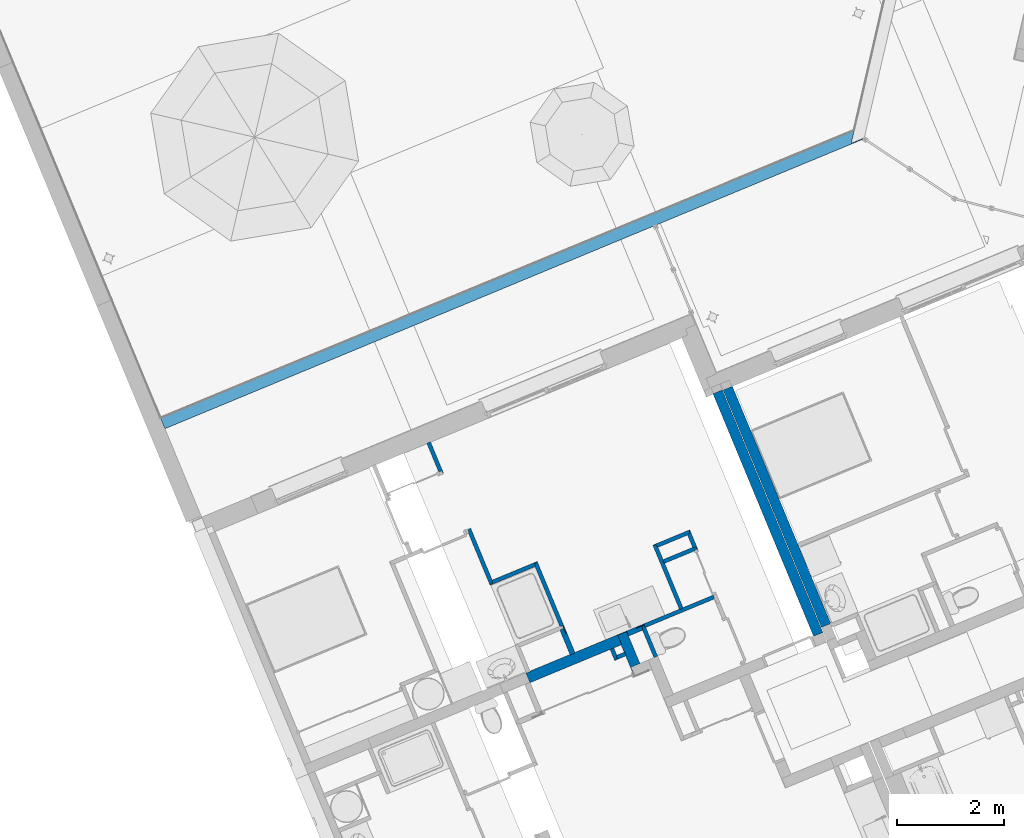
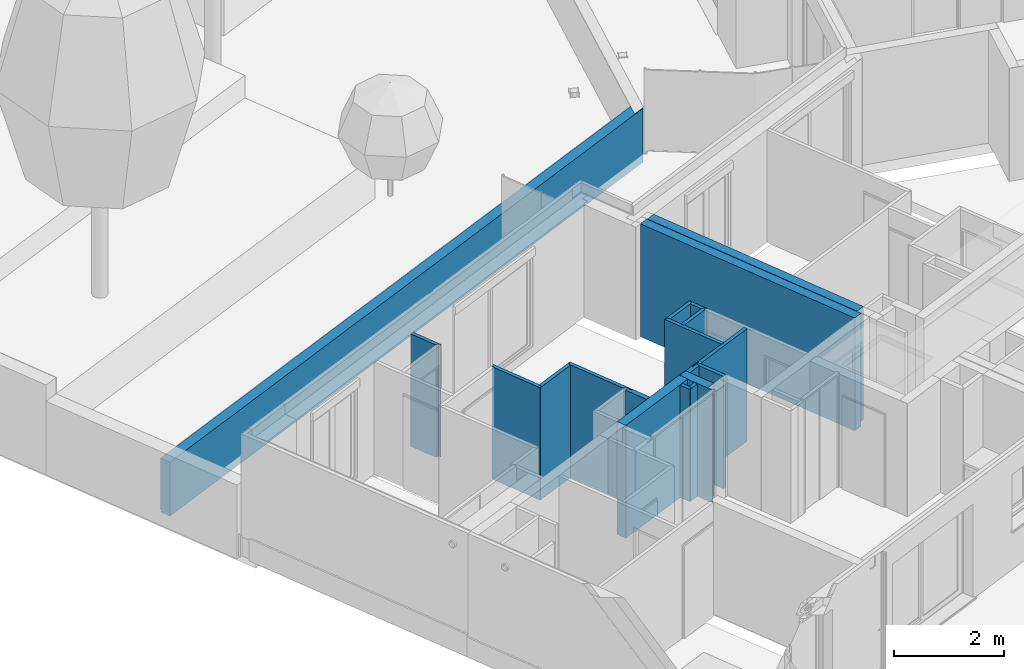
# One storey, part 40 of 119: 19 walls.
"""IFC2X3 building model written with IfcOpenShell, lengths in metres."""

import ifcopenshell
import ifcopenshell.guid

model = None  # the IFC model being written
_history = None  # IfcOwnerHistory: only IFC2X3 demands one
_inside = {}  # id of a spatial element -> (the spatial element, [elements in it])
_under = {}  # id of a project, library or spatial element -> (it, [spatial elements below it])
_declared = {}  # id of a project -> (the project, [libraries it declares])
_typed = {}  # id of a type object -> (the type object, [elements of that type])
_made_of = {}  # id of a material, layer set ... -> (it, [elements and type objects made of it])


def new_model(schema):
    """Start an empty IFC model of exactly this schema.

    Asked for "IFC4X3", IfcOpenShell would pick the latest addendum, in which some entities
    have other attributes; the version numbers below select the first issue.
    IFC2X3 requires an IfcOwnerHistory on every rooted entity: one is made here for all.
    """
    global model, _history
    if schema == "IFC4X3":
        model = ifcopenshell.file(schema_version=(4, 3, 0, 0))
    else:
        model = ifcopenshell.file(schema=schema)
    _inside.clear()
    _under.clear()
    _declared.clear()
    _typed.clear()
    _made_of.clear()
    _history = None
    if model.schema == "IFC2X3":
        org = make("IfcOrganization", Name="unknown")
        user = make(
            "IfcPersonAndOrganization",
            ThePerson=make("IfcPerson", FamilyName="unknown"),
            TheOrganization=org,
        )
        app = make(
            "IfcApplication",
            ApplicationDeveloper=org,
            Version="unknown",
            ApplicationFullName="unknown",
            ApplicationIdentifier="unknown",
        )
        _history = make(
            "IfcOwnerHistory",
            OwningUser=user,
            OwningApplication=app,
            ChangeAction="ADDED",
            CreationDate=0,
        )
    return model


def make(cls, **values):
    """One entity of the class cls with the attributes given. An attribute that is None is left unset."""
    return model.create_entity(
        cls, **{name: value for name, value in values.items() if value is not None}
    )


def entity(cls, *values):
    """Any entity or typed value of the class cls, its attributes in the order of the schema. None: left unset."""
    e = model.create_entity(cls)
    for i, value in enumerate(values):
        if value is not None:
            e[i] = value
    return e


def rooted(cls, **values):
    """An entity with a GlobalId (a new one), such as an element, a storey or a relation."""
    return make(cls, GlobalId=ifcopenshell.guid.new(), OwnerHistory=_history, **values)


def si_unit(unit_type, name, prefix=None):
    """IfcSIUnit, for example si_unit("LENGTHUNIT", "METRE", prefix="MILLI")."""
    return make("IfcSIUnit", UnitType=unit_type, Prefix=prefix, Name=name)


def converted_unit(unit_type, name, factor, base, dimensions=None, offset=None):
    """IfcConversionBasedUnit, such as the inch: factor (a typed value) times the base unit."""
    return make(
        "IfcConversionBasedUnit"
        if offset is None
        else "IfcConversionBasedUnitWithOffset",
        ConversionOffset=offset,
        Dimensions=None
        if dimensions is None
        else entity("IfcDimensionalExponents", *dimensions),
        UnitType=unit_type,
        Name=name,
        ConversionFactor=make(
            "IfcMeasureWithUnit", ValueComponent=factor, UnitComponent=base
        ),
    )


def derived_unit(unit_type, elements):
    """IfcDerivedUnit: a product of units, each with its exponent."""
    return make(
        "IfcDerivedUnit",
        Elements=[
            make("IfcDerivedUnitElement", Unit=unit, Exponent=power)
            for unit, power in elements
        ],
        UnitType=unit_type,
    )


def money_unit(currency):
    """IfcMonetaryUnit."""
    return make("IfcMonetaryUnit", Currency=currency)


def assignment(units):
    """IfcUnitAssignment: the units of a project."""
    return None if units is None else make("IfcUnitAssignment", Units=units)


def point(xyz):
    """IfcCartesianPoint."""
    return None if xyz is None else make("IfcCartesianPoint", Coordinates=xyz)


def direction(xyz):
    """IfcDirection."""
    return None if xyz is None else make("IfcDirection", DirectionRatios=xyz)


def frame(location, z_axis=None, x_axis=None):
    """IfcAxis2Placement3D, a coordinate frame: its origin and axes. An axis left out is left unset."""
    return make(
        "IfcAxis2Placement3D",
        Location=point(location),
        Axis=direction(z_axis),
        RefDirection=direction(x_axis),
    )


def origin_with_axes():
    """The frame at (0, 0, 0) with the z axis (0, 0, 1) and the x axis (1, 0, 0) written out."""
    return frame((0.0, 0.0, 0.0), z_axis=(0.0, 0.0, 1.0), x_axis=(1.0, 0.0, 0.0))


def place(relative_to, where):
    """IfcLocalPlacement: puts the frame where relative to a parent placement (None: the world)."""
    return make(
        "IfcLocalPlacement", PlacementRelTo=relative_to, RelativePlacement=where
    )


def context(
    kind, dimensions, precision=None, world=None, true_north=None, identifier=None
):
    """IfcGeometricRepresentationContext, for example the 3D "Model" context."""
    return make(
        "IfcGeometricRepresentationContext",
        ContextIdentifier=identifier,
        ContextType=kind,
        CoordinateSpaceDimension=dimensions,
        Precision=precision,
        WorldCoordinateSystem=world,
        TrueNorth=true_north,
    )


def subcontext(parent, identifier, kind, view, scale=None):
    """IfcGeometricRepresentationSubContext, for example "Body" below "Model"."""
    return make(
        "IfcGeometricRepresentationSubContext",
        ContextIdentifier=identifier,
        ContextType=kind,
        ParentContext=parent,
        TargetScale=scale,
        TargetView=view,
    )


def project(units=None, contexts=None):
    """IfcProject with its units and contexts."""
    return rooted(
        "IfcProject",
        Name="project",
        RepresentationContexts=contexts,
        UnitsInContext=assignment(units),
    )


def spatial(cls, under=None, at=None, **own):
    """A site, building, storey or space (cls), placed at a placement, below another one or the project."""
    s = rooted(cls, ObjectPlacement=at, **own)
    if under is not None:
        _under.setdefault(under.id(), (under, []))[1].append(s)
    return s


def faces_of(points, faces, orient=None, outer=None):
    """IfcFace entities. A face is a list of loops; a loop is a list of indices into points, from 0.

    orient and outer hold one flag for each loop. By default every Orientation is true, the
    first loop of a face is its IfcFaceOuterBound and the others are IfcFaceBound.
    """
    made = []
    for i, loops in enumerate(faces):
        bounds = []
        for j, loop in enumerate(loops):
            is_outer = j == 0 if outer is None else outer[i][j]
            bounds.append(
                make(
                    "IfcFaceOuterBound" if is_outer else "IfcFaceBound",
                    Bound=make("IfcPolyLoop", Polygon=[points[k] for k in loop]),
                    Orientation=True if orient is None else orient[i][j],
                )
            )
        made.append(make("IfcFace", Bounds=bounds))
    return made


def faceted_brep(points, faces, orient=None, outer=None, voids=None):
    """IfcFacetedBrep: a solid bounded by flat faces; with voids (closed shells), ...WithVoids."""
    shared = [point(p) for p in points]
    hull = make("IfcClosedShell", CfsFaces=faces_of(shared, faces, orient, outer))
    if voids is None:
        return make("IfcFacetedBrep", Outer=hull)
    return make(
        "IfcFacetedBrepWithVoids",
        Outer=hull,
        Voids=[
            make(cls, CfsFaces=faces_of(shared, fs, o, b)) for cls, fs, o, b in voids
        ],
    )


def shape(context_of_items, identifier, shape_type, items):
    """IfcShapeRepresentation: the items that make up one representation, for example the "Body"."""
    return make(
        "IfcShapeRepresentation",
        ContextOfItems=context_of_items,
        RepresentationIdentifier=identifier,
        RepresentationType=shape_type,
        Items=items,
    )


def material(Name=None, Category=None):
    """IfcMaterial."""
    return make("IfcMaterial", Name=Name, Category=Category)


def material_list(materials):
    """IfcMaterialList."""
    return make("IfcMaterialList", Materials=materials)


def made_of(thing, what):
    """Note that an element or type object is made of a material, layer set ...; save() writes the relation."""
    if what is not None:
        _made_of.setdefault(what.id(), (what, []))[1].append(thing)
    return thing


def type_object(cls, material=None, **own):
    """A type object (cls), such as IfcWallType, which elements share."""
    return made_of(rooted(cls, **own), material)


def element(
    cls,
    number,
    at=None,
    inside=None,
    cuts=None,
    type_object=None,
    material=None,
    context=None,
    identifier="Body",
    shape_type=None,
    held_by="IfcProductDefinitionShape",
    body=None,
    shapes=None,
    **own,
):
    """One element of the class cls, such as IfcWall. Its Tag is "e" and its number.

    at: its placement. inside: the storey or other place that contains it. cuts: it is an
    opening in that element (IfcRelVoidsElement). A single representation is given by context,
    identifier, shape_type and body (its items); several are given by shapes. held_by: the class
    of the entity that holds the representations. save() writes the other relations.
    """
    e = rooted(cls, Tag="e%d" % number, ObjectPlacement=at, **own)
    if body is not None:
        shapes = [shape(context, identifier, shape_type, body)]
    if shapes is not None:
        e.Representation = make(held_by, Representations=shapes)
    if inside is not None:
        _inside.setdefault(inside.id(), (inside, []))[1].append(e)
    if cuts is not None:
        rooted(
            "IfcRelVoidsElement", RelatingBuildingElement=cuts, RelatedOpeningElement=e
        )
    if type_object is not None:
        _typed.setdefault(type_object.id(), (type_object, []))[1].append(e)
    return made_of(e, material)


def aggregate(whole, parts):
    """IfcRelAggregates: a whole, such as a stair, and the parts it consists of."""
    return rooted("IfcRelAggregates", RelatingObject=whole, RelatedObjects=parts)


def save(model, path):
    """Write the relations noted so far, then the file.

    IfcRelAggregates (storeys below a building ...), IfcRelContainedInSpatialStructure (elements
    in a storey), IfcRelDefinesByType, IfcRelAssociatesMaterial and IfcRelDeclares: one each for
    every whole, place, type object, material and project.
    """
    for whole, parts in _under.values():
        aggregate(whole, parts)
    for where, things in _inside.values():
        rooted(
            "IfcRelContainedInSpatialStructure",
            RelatedElements=things,
            RelatingStructure=where,
        )
    for kind, things in _typed.values():
        rooted("IfcRelDefinesByType", RelatedObjects=things, RelatingType=kind)
    for what, things in _made_of.values():
        rooted("IfcRelAssociatesMaterial", RelatedObjects=things, RelatingMaterial=what)
    for by, libraries in _declared.values():
        rooted("IfcRelDeclares", RelatingContext=by, RelatedDefinitions=libraries)
    model.write(path)


model = new_model("IFC2X3")

# Units and contexts
model_context = context("Model", 3, precision=1e-05, world=origin_with_axes(), true_north=direction((0.0, 1.0)))
body_context = subcontext(model_context, "Body", "Model", "MODEL_VIEW")
ifc_project = project(units=[si_unit("LENGTHUNIT", "METRE"), si_unit("AREAUNIT", "SQUARE_METRE"), si_unit("VOLUMEUNIT", "CUBIC_METRE"), converted_unit("PLANEANGLEUNIT", "DEGREE", entity("IfcPlaneAngleMeasure", 0.0174532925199), si_unit("PLANEANGLEUNIT", "RADIAN"), dimensions=[0, 0, 0, 0, 0, 0, 0]), si_unit("SOLIDANGLEUNIT", "STERADIAN"), money_unit("EUR"), converted_unit("TIMEUNIT", "Year", entity("IfcTimeMeasure", 31556926.0), si_unit("TIMEUNIT", "SECOND"), dimensions=[0, 0, 1, 0, 0, 0, 0]), si_unit("MASSUNIT", "GRAM", prefix="KILO"), si_unit("THERMODYNAMICTEMPERATUREUNIT", "DEGREE_CELSIUS"), si_unit("LUMINOUSINTENSITYUNIT", "LUMEN"), si_unit("ENERGYUNIT", "JOULE", prefix="MEGA"), derived_unit("THERMALCONDUCTANCEUNIT", [(si_unit("POWERUNIT", "WATT"), 1), (si_unit("LENGTHUNIT", "METRE"), -1), (si_unit("THERMODYNAMICTEMPERATUREUNIT", "KELVIN"), -1)]), derived_unit("SPECIFICHEATCAPACITYUNIT", [(si_unit("ENERGYUNIT", "JOULE"), 1), (si_unit("MASSUNIT", "GRAM", prefix="KILO"), -1), (si_unit("THERMODYNAMICTEMPERATUREUNIT", "KELVIN"), -1)]), derived_unit("MASSDENSITYUNIT", [(si_unit("MASSUNIT", "GRAM", prefix="KILO"), 1), (si_unit("VOLUMEUNIT", "CUBIC_METRE"), -1)])], contexts=[model_context])

# Site, building, storey
site_placement = place(None, origin_with_axes())
site = spatial("IfcSite", under=ifc_project, at=site_placement, Name="Site", CompositionType="ELEMENT")
building_placement = place(site_placement, origin_with_axes())
building = spatial("IfcBuilding", under=site, at=building_placement, Name="Bâtiment", CompositionType="ELEMENT")
storey_placement = place(building_placement, origin_with_axes())
storey = spatial("IfcBuildingStorey", under=building, at=storey_placement, Name="Rez-de-chaussée", CompositionType="ELEMENT", Elevation=0.0)

# Walls
ifc_material_1 = material(Name="Finition int - Plaque de plâtre")
ifc_material_2 = material(Name="Isolation - Laine de roche")
ifc_material_list_1 = material_list([ifc_material_1, ifc_material_2, ifc_material_1])
wall_type_1 = type_object("IfcWallType", Name="3 - Cloison 72mm Placostil 74", PredefinedType="USERDEFINED")
wall_1_placement = place(storey_placement, frame((-25.5578025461, -19.2928415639, 0.0), z_axis=(0.0, 0.0, 1.0), x_axis=(-0.923701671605, -0.383112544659, 0.0)))
element("IfcWall", 1, at=wall_1_placement, inside=storey, type_object=wall_type_1, material=ifc_material_list_1, Name="Cloison Placostil 72/48", ObjectType="PARTITIONING", context=body_context, shape_type="Brep", body=[
    faceted_brep([(0.0739999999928, 0.061, 2.5), (1.46199999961, 0.061, 2.5), (1.46199999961, 0.0740000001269, 2.5), (0.0739999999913, 0.074, 2.5), (0.0739999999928, 0.061, 0.0), (1.46199999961, 0.061, 0.0), (1.46199999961, 0.0740000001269, 0.0), (0.0739999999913, 0.074, 0.0)], [[[0, 1, 2, 3]], [[4, 5, 1, 0]], [[5, 6, 2, 1]], [[3, 2, 6, 7]], [[3, 7, 4, 0]], [[7, 6, 5, 4]]]),
    faceted_brep([(1.63599999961, 0.0260000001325, 2.5), (1.52299999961, 0.0260000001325, 2.5), (1.47499999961, 0.0260000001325, 2.5), (1.47499999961, 0.061, 2.5), (0.0609999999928, 0.061, 2.5), (0.0609999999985, 0.013, 2.5), (1.63599999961, 0.013, 2.5), (1.63599999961, 0.0260000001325, 0.0), (1.52299999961, 0.0260000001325, 0.0), (1.47499999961, 0.0260000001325, 0.0), (1.47499999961, 0.061, 0.0), (0.0609999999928, 0.061, 0.0), (0.0609999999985, 0.013, 0.0), (1.63599999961, 0.013, 0.0)], [[[0, 1, 2, 3, 4, 5, 6]], [[7, 8, 9, 2, 1, 0]], [[9, 10, 3, 2]], [[4, 3, 10, 11]], [[4, 11, 12, 5]], [[6, 5, 12, 13]], [[13, 7, 0, 6]], [[10, 9, 8, 7, 13, 12, 11]]]),
    faceted_brep([(0.735000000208, 0.0, 2.5), (1.46199999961, 1.32503785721e-10, 2.5), (1.46199999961, 0.0130000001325, 2.5), (0.735000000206, 0.013, 2.5), (0.735000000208, 0.0, 0.0), (1.46199999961, 1.32503785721e-10, 0.0), (1.46199999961, 0.0130000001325, 0.0), (0.735000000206, 0.013, 0.0)], [[[0, 1, 2, 3]], [[4, 5, 1, 0]], [[5, 6, 2, 1]], [[3, 2, 6, 7]], [[3, 7, 4, 0]], [[7, 6, 5, 4]]]),
    faceted_brep([(0.687000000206, 0.013, 0.0), (0.0609999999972, 0.013, 0.0), (0.0609999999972, 0.013, 2.5), (0.687000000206, 0.013, 2.5), (0.687000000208, 0.0, 0.0), (0.061, 0.0, 0.0), (0.061, 0.0, 2.5), (0.687000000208, 0.0, 2.5)], [[[0, 1, 2, 3]], [[4, 5, 1, 0]], [[5, 6, 2, 1]], [[3, 2, 6, 7]], [[3, 7, 4, 0]], [[7, 6, 5, 4]]]),
])
wall_2_placement = place(storey_placement, frame((-25.9026038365, -18.4615100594, 0.0), z_axis=(0.0, 0.0, 1.0), x_axis=(-0.383112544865, 0.923701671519, 0.0)))
element("IfcWall", 2, at=wall_2_placement, inside=storey, type_object=wall_type_1, material=ifc_material_list_1, Name="Cloison Placostil 72/48", ObjectType="PARTITIONING", context=body_context, shape_type="Brep", body=[
    faceted_brep([(0.32472765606, 0.074, 0.0), (0.324727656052, 0.061, 0.0), (0.0740000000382, 0.061, 0.0), (0.0740000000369, 0.074, 0.0), (0.32472765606, 0.074, 2.5), (0.324727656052, 0.061, 2.5), (0.0740000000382, 0.061, 2.5), (0.0740000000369, 0.074, 2.5)], [[[0, 1, 2, 3]], [[1, 0, 4, 5]], [[1, 5, 6, 2]], [[7, 3, 2, 6]], [[4, 0, 3, 7]], [[5, 4, 7, 6]]]),
    faceted_brep([(0.337727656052, 0.061, 0.0), (0.337727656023, 0.013, 0.0), (0.0610000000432, 0.013, 0.0), (0.0610000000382, 0.061, 0.0), (0.337727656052, 0.061, 2.5), (0.337727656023, 0.013, 2.5), (0.0610000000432, 0.013, 2.5), (0.0610000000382, 0.061, 2.5)], [[[0, 1, 2, 3]], [[1, 0, 4, 5]], [[1, 5, 6, 2]], [[7, 3, 2, 6]], [[4, 0, 3, 7]], [[5, 4, 7, 6]]]),
    faceted_brep([(0.0130000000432, 0.013, 0.0), (0.385727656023, 0.013, 0.0), (0.385727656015, 0.0, 0.0), (0.0130000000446, 0.0, 0.0), (0.0130000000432, 0.013, 2.5), (0.385727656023, 0.013, 2.5), (0.385727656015, 0.0, 2.5), (0.0130000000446, 0.0, 2.5)], [[[0, 1, 2, 3]], [[4, 5, 1, 0]], [[6, 2, 1, 5]], [[3, 2, 6, 7]], [[7, 4, 0, 3]], [[7, 6, 5, 4]]]),
])
wall_3_placement = place(storey_placement, frame((-26.5251787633, -18.7197279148, 0.0), z_axis=(0.0, 0.0, 1.0), x_axis=(0.923701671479, 0.383112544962, 0.0)))
element("IfcWall", 3, at=wall_3_placement, inside=storey, type_object=wall_type_1, material=ifc_material_list_1, Name="Cloison Placostil 72/48", ObjectType="PARTITIONING", context=body_context, shape_type="Brep", body=[
    faceted_brep([(0.613000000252, 0.074, 0.0), (0.613000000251, 0.061, 0.0), (1.45170986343e-10, 0.061, 0.0), (1.48048684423e-10, 0.074, 0.0), (0.613000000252, 0.074, 2.5), (0.613000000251, 0.061, 2.5), (1.45170986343e-10, 0.061, 2.5), (1.48048684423e-10, 0.074, 2.5)], [[[0, 1, 2, 3]], [[1, 0, 4, 5]], [[1, 5, 6, 2]], [[7, 3, 2, 6]], [[4, 0, 3, 7]], [[5, 4, 7, 6]]]),
    faceted_brep([(-0.0129999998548, 0.061, 0.0), (0.661000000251, 0.061, 0.0), (0.661000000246, 0.013, 0.0), (-0.0129999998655, 0.013, 0.0), (-0.0129999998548, 0.061, 2.5), (0.661000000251, 0.061, 2.5), (0.661000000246, 0.013, 2.5), (-0.0129999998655, 0.013, 2.5)], [[[0, 1, 2, 3]], [[4, 5, 1, 0]], [[6, 2, 1, 5]], [[3, 2, 6, 7]], [[7, 4, 0, 3]], [[7, 6, 5, 4]]]),
    faceted_brep([(1.31663568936e-10, 0.0, 0.0), (0.613000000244, 0.0, 0.0), (0.613000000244, 0.0, 2.5), (1.31663568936e-10, 0.0, 2.5), (1.3454481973e-10, 0.013, 0.0), (0.613000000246, 0.013, 0.0), (0.613000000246, 0.013, 2.5), (1.3454481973e-10, 0.013, 2.5)], [[[0, 1, 2, 3]], [[4, 5, 1, 0]], [[5, 6, 2, 1]], [[3, 2, 6, 7]], [[3, 7, 4, 0]], [[7, 6, 5, 4]]]),
    faceted_brep([(0.674000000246, 0.013, 2.5), (0.661000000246, 0.013, 2.5), (0.661000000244, 0.0, 2.5), (0.674000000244, 0.0, 2.5), (0.674000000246, 0.013, 0.0), (0.661000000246, 0.013, 0.0), (0.661000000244, 0.0, 0.0), (0.674000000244, 0.0, 0.0)], [[[0, 1, 2, 3]], [[4, 5, 1, 0]], [[5, 6, 2, 1]], [[3, 2, 6, 7]], [[3, 7, 4, 0]], [[7, 6, 5, 4]]]),
])
wall_4_placement = place(storey_placement, frame((-26.1803774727, -19.5510594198, 0.0), z_axis=(0.0, 0.0, 1.0), x_axis=(-0.383112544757, 0.923701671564, 0.0)))
element("IfcWall", 4, at=wall_4_placement, inside=storey, type_object=wall_type_1, material=ifc_material_list_1, Name="Cloison Placostil 72/48", ObjectType="PARTITIONING", context=body_context, shape_type="Brep", body=[
    faceted_brep([(1.29872765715, 0.074, 0.0), (1.29872765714, 0.061, 0.0), (7.02268465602e-10, 0.061, 0.0), (7.0365224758e-10, 0.074, 0.0), (1.29872765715, 0.074, 2.5), (1.29872765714, 0.061, 2.5), (7.02268465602e-10, 0.061, 2.5), (7.0365224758e-10, 0.074, 2.5)], [[[0, 1, 2, 3]], [[1, 0, 4, 5]], [[1, 5, 6, 2]], [[7, 3, 2, 6]], [[4, 0, 3, 7]], [[5, 4, 7, 6]]]),
    faceted_brep([(1.28572765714, 0.061, 0.0), (1.28572765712, 0.013, 0.0), (-0.0129999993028, 0.013, 0.0), (-0.0129999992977, 0.061, 0.0), (1.28572765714, 0.061, 2.5), (1.28572765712, 0.013, 2.5), (-0.0129999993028, 0.013, 2.5), (-0.0129999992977, 0.061, 2.5)], [[[0, 1, 2, 3]], [[1, 0, 4, 5]], [[1, 5, 6, 2]], [[7, 3, 2, 6]], [[4, 0, 3, 7]], [[5, 4, 7, 6]]]),
    faceted_brep([(1.23772765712, 0.013, 0.0), (1.23772765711, 0.0, 0.0), (0.961000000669, 0.0, 0.0), (0.961000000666, 0.013, 0.0), (1.23772765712, 0.013, 2.5), (1.23772765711, 0.0, 2.5), (0.961000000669, 0.0, 2.5), (0.961000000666, 0.013, 2.5)], [[[0, 1, 2, 3]], [[1, 0, 4, 5]], [[1, 5, 6, 2]], [[7, 3, 2, 6]], [[4, 0, 3, 7]], [[5, 4, 7, 6]]]),
    faceted_brep([(0.913000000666, 0.013, 0.0), (0.913000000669, 0.0, 0.0), (6.9576699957e-10, 0.0, 0.0), (6.97149005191e-10, 0.013, 0.0), (0.913000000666, 0.013, 2.5), (0.913000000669, 0.0, 2.5), (6.9576699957e-10, 0.0, 2.5), (6.97149005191e-10, 0.013, 2.5)], [[[0, 1, 2, 3]], [[1, 0, 4, 5]], [[1, 5, 6, 2]], [[7, 3, 2, 6]], [[4, 0, 3, 7]], [[5, 4, 7, 6]]]),
])
wall_5_placement = place(storey_placement, frame((-28.9136794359, -18.6851546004, 0.0), z_axis=(0.0, 0.0, 1.0), x_axis=(0.38311254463, -0.923701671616, 0.0)))
element("IfcWall", 5, at=wall_5_placement, inside=storey, type_object=wall_type_1, material=ifc_material_list_1, Name="Cloison Placostil 72/48", ObjectType="PARTITIONING", context=body_context, shape_type="Brep", body=[
    faceted_brep([(0.0, -0.013, 2.5), (1.28399999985, -0.013, 2.5), (1.28399999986, 0.0, 2.5), (0.0, 0.0, 2.5), (0.0, -0.013, 0.0), (1.28399999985, -0.013, 0.0), (1.28399999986, 0.0, 0.0), (0.0, 0.0, 0.0)], [[[0, 1, 2, 3]], [[4, 5, 1, 0]], [[5, 6, 2, 1]], [[3, 2, 6, 7]], [[4, 0, 3, 7]], [[7, 6, 5, 4]]]),
    faceted_brep([(0.0130000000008, -0.061, 2.5), (1.29699999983, -0.061, 2.5), (1.29699999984, -0.0260000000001, 2.5), (1.34499999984, -0.0260000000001, 2.5), (1.45799999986, -0.0260000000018, 2.5), (1.45799999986, -0.013, 2.5), (0.0130000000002, -0.013, 2.5), (0.0130000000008, -0.061, 0.0), (1.29699999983, -0.061, 0.0), (1.29699999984, -0.0260000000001, 0.0), (1.34499999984, -0.0260000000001, 0.0), (1.45799999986, -0.0260000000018, 0.0), (1.45799999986, -0.013, 0.0), (0.0130000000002, -0.013, 0.0)], [[[0, 1, 2, 3, 4, 5, 6]], [[7, 8, 1, 0]], [[9, 2, 1, 8]], [[4, 3, 2, 9, 10, 11]], [[5, 4, 11, 12]], [[12, 13, 6, 5]], [[7, 0, 6, 13]], [[10, 9, 8, 7, 13, 12, 11]]]),
    faceted_brep([(0.061000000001, -0.074, 2.5), (1.28399999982, -0.0740000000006, 2.5), (1.28399999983, -0.061, 2.5), (0.0610000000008, -0.061, 2.5), (0.061000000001, -0.074, 0.0), (1.28399999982, -0.0740000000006, 0.0), (1.28399999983, -0.061, 0.0), (0.0610000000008, -0.061, 0.0)], [[[0, 1, 2, 3]], [[4, 5, 1, 0]], [[5, 6, 2, 1]], [[3, 2, 6, 7]], [[4, 0, 3, 7]], [[7, 6, 5, 4]]]),
])
wall_6_placement = place(storey_placement, frame((-26.6779363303, -18.351422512, 0.0), z_axis=(0.0, 0.0, 1.0), x_axis=(0.923701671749, 0.383112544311, 0.0)))
element("IfcWall", 6, at=wall_6_placement, inside=storey, type_object=wall_type_1, material=ifc_material_list_1, Name="Cloison Placostil 72/48", ObjectType="PARTITIONING", context=body_context, shape_type="Brep", body=[
    faceted_brep([(0.674000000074, -0.013, 2.5), (0.674000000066, 0.0, 2.5), (-0.061, 0.0, 2.5), (-0.0609999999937, -0.013, 2.5), (0.674000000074, -0.013, 0.0), (0.674000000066, 0.0, 0.0), (-0.061, 0.0, 0.0), (-0.0609999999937, -0.013, 0.0)], [[[0, 1, 2, 3]], [[1, 0, 4, 5]], [[1, 5, 6, 2]], [[7, 3, 2, 6]], [[4, 0, 3, 7]], [[5, 4, 7, 6]]]),
    faceted_brep([(0.661000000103, -0.061, 2.5), (0.661000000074, -0.013, 2.5), (-0.0129999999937, -0.013, 2.5), (-0.0129999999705, -0.061, 2.5), (0.661000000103, -0.061, 0.0), (0.661000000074, -0.013, 0.0), (-0.0129999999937, -0.013, 0.0), (-0.0129999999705, -0.061, 0.0)], [[[0, 1, 2, 3]], [[1, 0, 4, 5]], [[1, 5, 6, 2]], [[7, 3, 2, 6]], [[4, 0, 3, 7]], [[5, 4, 7, 6]]]),
    faceted_brep([(0.61300000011, -0.074, 2.5), (0.613000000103, -0.061, 2.5), (0.0, -0.061, 2.5), (0.0, -0.074, 2.5), (0.61300000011, -0.074, 0.0), (0.613000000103, -0.061, 0.0), (0.0, -0.061, 0.0), (0.0, -0.074, 0.0)], [[[0, 1, 2, 3]], [[1, 0, 4, 5]], [[1, 5, 6, 2]], [[7, 3, 2, 6]], [[4, 0, 3, 7]], [[5, 4, 7, 6]]]),
])
wall_7_placement = place(storey_placement, frame((-29.8253729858, -19.063286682, 0.0), z_axis=(0.0, 0.0, 1.0), x_axis=(-0.383112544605, 0.923701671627, 0.0)))
element("IfcWall", 7, at=wall_7_placement, inside=storey, type_object=wall_type_1, material=ifc_material_list_1, Name="Cloison Placostil 72/48", ObjectType="PARTITIONING", context=body_context, shape_type="Brep", body=[
    faceted_brep([(0.996550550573, -0.013, 2.5), (0.996550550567, 0.0, 2.5), (-0.074, 0.0, 2.5), (-0.0739999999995, -0.013, 2.5), (0.996550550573, -0.013, 0.0), (0.996550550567, 0.0, 0.0), (-0.074, 0.0, 0.0), (-0.0739999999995, -0.013, 0.0)], [[[0, 1, 2, 3]], [[1, 0, 4, 5]], [[1, 5, 6, 2]], [[7, 3, 2, 6]], [[4, 0, 3, 7]], [[5, 4, 7, 6]]]),
    faceted_brep([(1.0445505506, -0.061, 2.5), (1.04455055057, -0.013, 2.5), (-0.0609999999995, -0.013, 2.5), (-0.0609999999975, -0.061, 2.5), (1.0445505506, -0.061, 0.0), (1.04455055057, -0.013, 0.0), (-0.0609999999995, -0.013, 0.0), (-0.0609999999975, -0.061, 0.0)], [[[0, 1, 2, 3]], [[1, 0, 4, 5]], [[1, 5, 6, 2]], [[7, 3, 2, 6]], [[4, 0, 3, 7]], [[5, 4, 7, 6]]]),
    faceted_brep([(1.0575505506, -0.074, 2.5), (1.0575505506, -0.061, 2.5), (-0.0129999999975, -0.061, 2.5), (-0.0129999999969, -0.074, 2.5), (1.0575505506, -0.074, 0.0), (1.0575505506, -0.061, 0.0), (-0.0129999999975, -0.061, 0.0), (-0.0129999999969, -0.074, 0.0)], [[[0, 1, 2, 3]], [[1, 0, 4, 5]], [[1, 5, 6, 2]], [[7, 3, 2, 6]], [[4, 0, 3, 7]], [[5, 4, 7, 6]]]),
])
wall_8_placement = place(storey_placement, frame((-28.9136794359, -18.6851546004, 0.0), z_axis=(0.0, 0.0, 1.0), x_axis=(-0.923701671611, -0.383112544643, 0.0)))
element("IfcWall", 8, at=wall_8_placement, inside=storey, type_object=wall_type_1, material=ifc_material_list_1, Name="Cloison Placostil 72/48", ObjectType="PARTITIONING", context=body_context, shape_type="Brep", body=[
    faceted_brep([(0.974000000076, 0.074, 0.0), (0.974000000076, 0.061, 0.0), (0.0740000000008, 0.061, 0.0), (0.074000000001, 0.074, 0.0), (0.974000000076, 0.074, 2.5), (0.974000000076, 0.061, 2.5), (0.0740000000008, 0.061, 2.5), (0.074000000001, 0.074, 2.5)], [[[0, 1, 2, 3]], [[1, 0, 4, 5]], [[1, 5, 6, 2]], [[7, 3, 2, 6]], [[4, 0, 3, 7]], [[5, 4, 7, 6]]]),
    faceted_brep([(0.926000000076, 0.061, 0.0), (0.926000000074, 0.013, 0.0), (0.0610000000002, 0.013, 0.0), (0.0610000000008, 0.061, 0.0), (0.926000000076, 0.061, 2.5), (0.926000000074, 0.013, 2.5), (0.0610000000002, 0.013, 2.5), (0.0610000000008, 0.061, 2.5)], [[[0, 1, 2, 3]], [[1, 0, 4, 5]], [[1, 5, 6, 2]], [[7, 3, 2, 6]], [[4, 0, 3, 7]], [[5, 4, 7, 6]]]),
    faceted_brep([(0.913000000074, 0.013, 0.0), (0.913000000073, 0.0, 0.0), (0.013, 0.0, 0.0), (0.0130000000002, 0.013, 0.0), (0.913000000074, 0.013, 2.5), (0.913000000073, 0.0, 2.5), (0.013, 0.0, 2.5), (0.0130000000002, 0.013, 2.5)], [[[0, 1, 2, 3]], [[1, 0, 4, 5]], [[1, 5, 6, 2]], [[7, 3, 2, 6]], [[4, 0, 3, 7]], [[5, 4, 7, 6]]]),
])
wall_9_placement = place(storey_placement, frame((-30.7336003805, -17.069274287, 0.0), z_axis=(0.0, 0.0, 1.0), x_axis=(-0.383112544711, 0.923701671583, 0.0)))
element("IfcWall", 9, at=wall_9_placement, inside=storey, type_object=wall_type_1, material=ifc_material_list_1, Name="Cloison Placostil 72/48", ObjectType="PARTITIONING", context=body_context, shape_type="Brep", body=[
    faceted_brep([(0.0739999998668, -0.013, 2.5), (0.649999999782, -0.013, 2.5), (0.649999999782, 0.0, 2.5), (0.0739999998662, 0.0, 2.5), (0.0739999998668, -0.013, 0.0), (0.649999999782, -0.013, 0.0), (0.649999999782, 0.0, 0.0), (0.0739999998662, 0.0, 0.0)], [[[0, 1, 2, 3]], [[4, 5, 1, 0]], [[2, 1, 5, 6]], [[3, 2, 6, 7]], [[4, 0, 3, 7]], [[7, 6, 5, 4]]]),
    faceted_brep([(0.0609999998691, -0.061, 2.5), (0.649999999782, -0.061, 2.5), (0.649999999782, -0.013, 2.5), (0.0609999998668, -0.013, 2.5), (0.0609999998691, -0.061, 0.0), (0.649999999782, -0.061, 0.0), (0.649999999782, -0.013, 0.0), (0.0609999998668, -0.013, 0.0)], [[[0, 1, 2, 3]], [[4, 5, 1, 0]], [[2, 1, 5, 6]], [[3, 2, 6, 7]], [[4, 0, 3, 7]], [[7, 6, 5, 4]]]),
    faceted_brep([(0.0129999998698, -0.074, 2.5), (0.649999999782, -0.074, 2.5), (0.649999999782, -0.061, 2.5), (0.0129999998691, -0.061, 2.5), (0.0129999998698, -0.074, 0.0), (0.649999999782, -0.074, 0.0), (0.649999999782, -0.061, 0.0), (0.0129999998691, -0.061, 0.0)], [[[0, 1, 2, 3]], [[4, 5, 1, 0]], [[2, 1, 5, 6]], [[3, 2, 6, 7]], [[4, 0, 3, 7]], [[7, 6, 5, 4]]]),
])
ifc_material_3 = material(Name="Finition int - Enduit plâtre")
ifc_material_4 = material(Name="Béton")
ifc_material_list_2 = material_list([ifc_material_3, ifc_material_4, ifc_material_3])
wall_type_2 = type_object("IfcWallType", Name="2 - Murs Béton 18 + Enduit 2 Faces 200", PredefinedType="USERDEFINED")
wall_10_placement = place(storey_placement, frame((-29.1251537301, -20.7724285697, 0.0), z_axis=(0.0, 0.0, 1.0), x_axis=(0.92370167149, 0.383112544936, 0.0)))
element("IfcWall", 10, at=wall_10_placement, inside=storey, type_object=wall_type_2, material=ifc_material_list_2, Name="M_Ext-008", ObjectType="SOLIDWALL", context=body_context, shape_type="Brep", body=[
    faceted_brep([(1.85001659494, 0.0, 2.51), (1.85001659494, -0.01, 2.51), (2.04001659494, -0.01, 2.51), (2.04001659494, 0.0, 2.51), (0.0, -0.01, 2.51), (0.0, 0.0, 2.51), (0.0, -0.01, 0.0), (0.00800000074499, -0.01, 0.0), (0.00800000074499, -0.01, 2.5), (0.082000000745, -0.01, 2.5), (0.082000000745, -0.01, 0.0), (0.895000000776, -0.01, 0.0), (0.895000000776, -0.01, 2.5), (0.995000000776, -0.01, 2.5), (0.995000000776, -0.01, 0.0), (2.04001659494, -0.01, 0.0), (2.04001659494, 0.0, 0.0), (0.99500000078, 0.0, 0.0), (0.99500000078, 0.0, 2.5), (0.89500000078, 0.0, 2.5), (0.89500000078, 0.0, 0.0), (0.0820000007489, 0.0, 0.0), (0.0820000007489, 0.0, 2.5), (0.00800000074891, 0.0, 2.5), (0.00800000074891, 0.0, 0.0), (0.0, 0.0, 0.0)], [[[0, 1, 2, 3]], [[4, 1, 0, 5]], [[1, 4, 6, 7, 8, 9, 10, 11, 12, 13, 14, 15, 2]], [[15, 16, 3, 2]], [[5, 0, 3, 16, 17, 18, 19, 20, 21, 22, 23, 24, 25]], [[4, 5, 25, 6]], [[25, 24, 7, 6]], [[23, 8, 7, 24]], [[9, 8, 23, 22]], [[21, 10, 9, 22]], [[21, 20, 11, 10]], [[19, 12, 11, 20]], [[18, 13, 12, 19]], [[17, 14, 13, 18]], [[15, 14, 17, 16]]]),
    faceted_brep([(1.85001659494, -0.01, 2.51), (1.85001659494, -0.19, 2.51), (1.86001659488, -0.19, 2.50999999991), (1.86001659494, -0.01, 2.50999999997), (0.0, -0.19, 2.51), (0.0, -0.01, 2.51), (0.0, -0.19, 0.0), (1.86001659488, -0.19, 0.0), (1.86001659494, -0.01, 0.0), (0.0, -0.01, 0.0)], [[[0, 1, 2, 3]], [[4, 1, 0, 5]], [[1, 4, 6, 7, 2]], [[8, 3, 2, 7]], [[5, 0, 3, 8, 9]], [[4, 5, 9, 6]], [[9, 8, 7, 6]]]),
    faceted_brep([(1.85001659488, -0.19, 2.51), (1.85001659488, -0.2, 2.51), (1.85001659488, -0.2, 0.0), (1.85001659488, -0.19, 0.0), (0.0, -0.2, 2.51), (0.0, -0.19, 2.51), (0.0, -0.2, 0.0), (0.0, -0.19, 0.0)], [[[0, 1, 2, 3]], [[4, 1, 0, 5]], [[1, 4, 6, 2]], [[7, 3, 2, 6]], [[5, 0, 3, 7]], [[4, 5, 7, 6]]]),
])
wall_type_3 = type_object("IfcWallType", Name="3 - Cloison Gaine Technique 72mm 74", PredefinedType="USERDEFINED")
wall_11_placement = place(storey_placement, frame((-26.6564102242, -20.4601597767, 0.0), z_axis=(0.0, 0.0, 1.0), x_axis=(-0.383112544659, 0.923701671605, 0.0)))
element("IfcWall", 11, at=wall_11_placement, inside=storey, type_object=wall_type_3, material=ifc_material_list_1, Name="Cloison Placostil 72/48", ObjectType="PARTITIONING", context=body_context, shape_type="Brep", body=[
    faceted_brep([(0.570363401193, 0.074, 0.0), (0.570363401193, 0.061, 0.0), (0.0, 0.061, 0.0), (0.0, 0.074, 0.0), (0.570363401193, 0.074, 2.5), (0.570363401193, 0.061, 2.5), (0.0, 0.061, 2.5), (0.0, 0.074, 2.5)], [[[0, 1, 2, 3]], [[1, 0, 4, 5]], [[1, 5, 6, 2]], [[7, 3, 2, 6]], [[4, 0, 3, 7]], [[5, 4, 7, 6]]]),
    faceted_brep([(0.0, 0.061, 0.0), (0.631363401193, 0.061, 0.0), (0.631363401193, 0.013, 0.0), (0.0, 0.013, 0.0), (0.0, 0.061, 2.5), (0.631363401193, 0.061, 2.5), (0.631363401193, 0.013, 2.5), (0.0, 0.013, 2.5)], [[[0, 1, 2, 3]], [[4, 5, 1, 0]], [[6, 2, 1, 5]], [[3, 2, 6, 7]], [[7, 4, 0, 3]], [[7, 6, 5, 4]]]),
    faceted_brep([(0.0, 0.0, 0.0), (0.596363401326, 0.0, 0.0), (0.596363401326, 0.0, 2.5), (0.0, 0.0, 2.5), (0.0, 0.013, 0.0), (0.596363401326, 0.013, 0.0), (0.596363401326, 0.013, 2.5), (0.0, 0.013, 2.5)], [[[0, 1, 2, 3]], [[4, 5, 1, 0]], [[5, 6, 2, 1]], [[3, 2, 6, 7]], [[3, 7, 4, 0]], [[7, 6, 5, 4]]]),
])
wall_12_placement = place(storey_placement, frame((-27.4607597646, -20.5411307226, 0.0), z_axis=(0.0, 0.0, 1.0), x_axis=(0.923701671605, 0.383112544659, 0.0)))
element("IfcWall", 12, at=wall_12_placement, inside=storey, type_object=wall_type_3, material=ifc_material_list_1, Name="Cloison Placostil 72/48", ObjectType="PARTITIONING", context=body_context, shape_type="Brep", body=[
    faceted_brep([(0.233999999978, 0.074, 0.0), (0.233999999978, 0.061, 0.0), (0.0739999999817, 0.061, 0.0), (0.0739999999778, 0.074, 0.0), (0.233999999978, 0.074, 2.5), (0.233999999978, 0.061, 2.5), (0.0739999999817, 0.061, 2.5), (0.0739999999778, 0.074, 2.5)], [[[0, 1, 2, 3]], [[1, 0, 4, 5]], [[1, 5, 6, 2]], [[7, 3, 2, 6]], [[4, 0, 3, 7]], [[5, 4, 7, 6]]]),
    faceted_brep([(0.233999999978, 0.061, 0.0), (0.233999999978, 0.013, 0.0), (0.0609999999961, 0.013, 0.0), (0.0609999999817, 0.061, 0.0), (0.233999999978, 0.061, 2.5), (0.233999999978, 0.013, 2.5), (0.0609999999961, 0.013, 2.5), (0.0609999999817, 0.061, 2.5)], [[[0, 1, 2, 3]], [[1, 0, 4, 5]], [[1, 5, 6, 2]], [[7, 3, 2, 6]], [[4, 0, 3, 7]], [[5, 4, 7, 6]]]),
    faceted_brep([(0.233999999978, 0.013, 0.0), (0.233999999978, 0.0, 0.0), (0.013, 0.0, 0.0), (0.0129999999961, 0.013, 0.0), (0.233999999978, 0.013, 2.5), (0.233999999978, 0.0, 2.5), (0.013, 0.0, 2.5), (0.0129999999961, 0.013, 2.5)], [[[0, 1, 2, 3]], [[1, 0, 4, 5]], [[1, 5, 6, 2]], [[7, 3, 2, 6]], [[4, 0, 3, 7]], [[5, 4, 7, 6]]]),
])
wall_13_placement = place(storey_placement, frame((-27.5465769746, -20.3342215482, 0.0), z_axis=(0.0, 0.0, 1.0), x_axis=(0.383112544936, -0.92370167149, 0.0)))
element("IfcWall", 13, at=wall_13_placement, inside=storey, type_object=wall_type_3, material=ifc_material_list_1, Name="Cloison Placostil 72/48", ObjectType="PARTITIONING", context=body_context, shape_type="Brep", body=[
    faceted_brep([(0.162999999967, 0.074, 0.0), (0.162999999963, 0.061, 0.0), (0.0, 0.061, 0.0), (0.0, 0.074, 0.0), (0.162999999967, 0.074, 2.5), (0.162999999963, 0.061, 2.5), (0.0, 0.061, 2.5), (0.0, 0.074, 2.5)], [[[0, 1, 2, 3]], [[1, 0, 4, 5]], [[1, 5, 6, 2]], [[7, 3, 2, 6]], [[4, 0, 3, 7]], [[5, 4, 7, 6]]]),
    faceted_brep([(0.210999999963, 0.061, 0.0), (0.210999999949, 0.013, 0.0), (0.0, 0.013, 0.0), (0.0, 0.061, 0.0), (0.210999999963, 0.061, 2.5), (0.210999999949, 0.013, 2.5), (0.0, 0.013, 2.5), (0.0, 0.061, 2.5)], [[[0, 1, 2, 3]], [[1, 0, 4, 5]], [[1, 5, 6, 2]], [[7, 3, 2, 6]], [[4, 0, 3, 7]], [[5, 4, 7, 6]]]),
    faceted_brep([(0.223999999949, 0.013, 0.0), (0.223999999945, 0.0, 0.0), (0.0, 0.0, 0.0), (0.0, 0.013, 0.0), (0.223999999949, 0.013, 2.5), (0.223999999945, 0.0, 2.5), (0.0, 0.0, 2.5), (0.0, 0.013, 2.5)], [[[0, 1, 2, 3]], [[1, 0, 4, 5]], [[1, 5, 6, 2]], [[7, 3, 2, 6]], [[4, 0, 3, 7]], [[5, 4, 7, 6]]]),
])
ifc_material_list_3 = material_list([ifc_material_3, ifc_material_4])
wall_type_4 = type_object("IfcWallType", Name="2 - Murs Béton 18 + Enduit 1 Face 190", PredefinedType="USERDEFINED")
wall_14_placement = place(storey_placement, frame((-27.0916547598, -20.8463749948, 0.0), z_axis=(0.0, 0.0, 1.0), x_axis=(-0.383112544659, 0.923701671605, 0.0)))
element("IfcWall", 14, at=wall_14_placement, inside=storey, type_object=wall_type_4, material=ifc_material_list_3, Name="M_Ext-008", ObjectType="SOLIDWALL", context=body_context, shape_type="Brep", body=[
    faceted_brep([(0.423363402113, 0.0, 2.5), (0.497363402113, 0.0, 2.5), (0.497363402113, -0.01, 2.5), (0.423363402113, -0.01, 2.5), (0.497363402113, 1.84146387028e-09, 0.0), (0.423363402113, 2.69314170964e-09, 0.0), (0.0740000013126, 6.71400357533e-09, 0.0), (0.0740000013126, 0.0, 2.5), (0.01, 7.45059480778e-09, 2.5), (0.01, 0.0, 2.5099999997), (0.657363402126, 0.0, 2.50999999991), (0.657363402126, 0.0, 0.0), (0.497363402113, -0.01, 0.0), (0.657363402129, -0.01, 0.0), (0.657363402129, -0.01, 2.50999999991), (0.0100000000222, -0.01, 2.50999999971), (0.0100000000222, -0.01, 2.5), (0.0740000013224, -0.01, 2.5), (0.0740000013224, -0.01, 0.0), (0.423363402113, -0.01, 0.0)], [[[0, 1, 2, 3]], [[4, 1, 0, 5, 6, 7, 8, 9, 10, 11]], [[4, 12, 2, 1]], [[2, 12, 13, 14, 15, 16, 17, 18, 19, 3]], [[0, 3, 19, 5]], [[6, 5, 19, 18]], [[6, 18, 17, 7]], [[8, 7, 17, 16]], [[9, 8, 16, 15]], [[10, 9, 15, 14]], [[10, 14, 13, 11]], [[13, 12, 4, 11]]]),
    faceted_brep([(0.190000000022, -0.01, 2.50999999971), (0.190000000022, -0.01, 0.0), (0.190000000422, -0.19, 0.0), (0.190000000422, -0.19, 2.5099999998), (0.837363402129, -0.01, 0.0), (0.837363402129, -0.01, 2.50999999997), (0.837363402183, -0.19, 0.0), (0.837363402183, -0.19, 2.50999999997)], [[[0, 1, 2, 3]], [[4, 1, 0, 5]], [[6, 2, 1, 4]], [[3, 2, 6, 7]], [[5, 0, 3, 7]], [[5, 7, 6, 4]]]),
])
wall_15_placement = place(storey_placement, frame((-25.4303695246, -15.4759738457, 0.0), z_axis=(0.0, 0.0, 1.0), x_axis=(0.383112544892, -0.923701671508, 0.0)))
element("IfcWall", 15, at=wall_15_placement, inside=storey, type_object=wall_type_4, material=ifc_material_list_3, Name="M_Ext-008", ObjectType="SOLIDWALL", context=body_context, shape_type="Brep", body=[
    faceted_brep([(0.0, 0.19, 2.51), (4.81173815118, 0.19, 2.51), (4.81173815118, 0.19, 0.0), (0.0, 0.19, 0.0), (4.81173815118, 0.18, 2.51), (0.0, 0.18, 2.51), (4.81173815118, 0.18, 0.0), (0.0, 0.18, 0.0)], [[[0, 1, 2, 3]], [[4, 1, 0, 5]], [[1, 4, 6, 2]], [[6, 7, 3, 2]], [[5, 0, 3, 7]], [[4, 5, 7, 6]]]),
    faceted_brep([(0.0, 0.18, 2.51), (4.81173815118, 0.18, 2.51), (4.81173815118, 0.18, 0.0), (0.0, 0.18, 0.0), (4.81173815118, 1.99286631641e-09, 2.51), (0.0, 3.85108123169e-09, 2.51), (4.81173815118, 0.0, 0.0), (0.0, 0.0, 0.0)], [[[0, 1, 2, 3]], [[4, 1, 0, 5]], [[1, 4, 6, 2]], [[6, 7, 3, 2]], [[5, 0, 3, 7]], [[4, 5, 7, 6]]]),
])
ifc_material_list_4 = material_list([ifc_material_4, ifc_material_3])
wall_16_placement = place(storey_placement, frame((-25.4434376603, -15.4705679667, 0.0), z_axis=(0.0, 0.0, 1.0), x_axis=(0.383112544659, -0.923701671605, 0.0)))
element("IfcWall", 16, at=wall_16_placement, inside=storey, type_object=wall_type_4, material=ifc_material_list_4, Name="M_Ext-008", ObjectType="SOLIDWALL", context=body_context, shape_type="Brep", body=[
    faceted_brep([(0.0, -1.28753185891e-09, 2.51), (4.9208258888, 0.0, 2.51), (4.9208258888, 0.0, 0.0), (0.0, 0.0, 0.0), (4.92082588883, -0.18, 2.51), (0.0, -0.18, 2.51), (4.92082588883, -0.18, 0.0), (0.0, -0.18, 0.0)], [[[0, 1, 2, 3]], [[4, 1, 0, 5]], [[1, 4, 6, 2]], [[2, 6, 7, 3]], [[5, 0, 3, 7]], [[4, 5, 7, 6]]]),
    faceted_brep([(0.0, -0.18, 2.51), (4.91082588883, -0.18, 2.51), (4.91082588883, -0.18, 0.0), (0.0, -0.18, 0.0), (4.91082588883, -0.19, 2.51), (0.0, -0.19, 2.51), (4.91082588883, -0.19, 0.0), (0.0, -0.19, 0.0)], [[[0, 1, 2, 3]], [[4, 1, 0, 5]], [[1, 4, 6, 2]], [[2, 6, 7, 3]], [[5, 0, 3, 7]], [[4, 5, 7, 6]]]),
])
ifc_material_list_5 = material_list([ifc_material_1, ifc_material_1, ifc_material_2, ifc_material_1, ifc_material_1])
wall_type_5 = type_object("IfcWallType", Name="3 - Cloison Gaine Technique 98mm 100", PredefinedType="USERDEFINED")
wall_17_placement = place(storey_placement, frame((-28.4217629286, -19.8711875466, 0.0), z_axis=(0.0, 0.0, 1.0), x_axis=(0.383112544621, -0.92370167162, 0.0)))
element("IfcWall", 17, at=wall_17_placement, inside=storey, type_object=wall_type_5, material=ifc_material_list_5, Name="Cloison 98 isolée", ObjectType="PARTITIONING", context=body_context, shape_type="Brep", body=[
    faceted_brep([(0.0, -0.013, 2.5), (0.572999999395, -0.013, 2.5), (0.572999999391, 0.0, 2.5), (0.0, 0.0, 2.5), (0.0, -0.013, 0.0), (0.572999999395, -0.013, 0.0), (0.572999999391, 0.0, 0.0), (0.0, 0.0, 0.0)], [[[0, 1, 2, 3]], [[4, 5, 1, 0]], [[6, 2, 1, 5]], [[3, 2, 6, 7]], [[7, 4, 0, 3]], [[7, 6, 5, 4]]]),
    faceted_brep([(0.572999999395, -0.013, 0.0), (0.174, -0.0129999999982, 0.0), (0.174, -0.0129999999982, 2.5), (0.572999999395, -0.013, 2.5), (0.5729999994, -0.026, 0.0), (0.174, -0.026, 0.0), (0.174, -0.026, 2.5), (0.5729999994, -0.026, 2.5)], [[[0, 1, 2, 3]], [[4, 5, 1, 0]], [[5, 6, 2, 1]], [[3, 2, 6, 7]], [[0, 3, 7, 4]], [[7, 6, 5, 4]]]),
    faceted_brep([(0.0609999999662, -0.074, 2.5), (0.572999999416, -0.074, 2.5), (0.5729999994, -0.026, 2.5), (0.0609999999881, -0.026, 2.5), (0.0609999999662, -0.074, 0.0), (0.572999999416, -0.074, 0.0), (0.5729999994, -0.026, 0.0), (0.0609999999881, -0.026, 0.0)], [[[0, 1, 2, 3]], [[4, 5, 1, 0]], [[6, 2, 1, 5]], [[3, 2, 6, 7]], [[7, 4, 0, 3]], [[7, 6, 5, 4]]]),
    faceted_brep([(0.0609999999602, -0.087, 2.5), (0.572999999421, -0.087, 2.5), (0.572999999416, -0.074, 2.5), (0.0609999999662, -0.074, 2.5), (0.0609999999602, -0.087, 0.0), (0.572999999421, -0.087, 0.0), (0.572999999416, -0.074, 0.0), (0.0609999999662, -0.074, 0.0)], [[[0, 1, 2, 3]], [[4, 5, 1, 0]], [[6, 2, 1, 5]], [[3, 2, 6, 7]], [[7, 4, 0, 3]], [[7, 6, 5, 4]]]),
    faceted_brep([(0.0739999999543, -0.1, 2.5), (0.572999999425, -0.1, 2.5), (0.572999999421, -0.087, 2.5), (0.0739999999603, -0.087, 2.5), (0.0739999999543, -0.1, 0.0), (0.572999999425, -0.1, 0.0), (0.572999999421, -0.087, 0.0), (0.0739999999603, -0.087, 0.0)], [[[0, 1, 2, 3]], [[4, 5, 1, 0]], [[6, 2, 1, 5]], [[3, 2, 6, 7]], [[7, 4, 0, 3]], [[7, 6, 5, 4]]]),
])
wall_18_placement = place(storey_placement, frame((-26.9082543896, -19.8529521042, 0.0), z_axis=(0.0, 0.0, 1.0), x_axis=(-0.923701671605, -0.383112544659, 0.0)))
element("IfcWall", 18, at=wall_18_placement, inside=storey, type_object=wall_type_5, material=ifc_material_list_5, Name="Cloison 98 isolée", ObjectType="PARTITIONING", context=body_context, shape_type="Brep", body=[
    faceted_brep([(0.074, 0.1, 0.0), (0.360000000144, 0.1, 0.0), (0.360000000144, 0.087, 0.0), (0.074, 0.087, 0.0), (0.074, 0.1, 2.5), (0.360000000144, 0.1, 2.5), (0.360000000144, 0.087, 2.5), (0.074, 0.087, 2.5)], [[[0, 1, 2, 3]], [[4, 5, 1, 0]], [[2, 1, 5, 6]], [[3, 2, 6, 7]], [[4, 0, 3, 7]], [[7, 6, 5, 4]]]),
    faceted_brep([(0.061, 0.087, 0.0), (0.360000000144, 0.087, 0.0), (0.360000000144, 0.074, 0.0), (0.061, 0.074, 0.0), (0.061, 0.087, 2.5), (0.360000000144, 0.087, 2.5), (0.360000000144, 0.074, 2.5), (0.061, 0.074, 2.5)], [[[0, 1, 2, 3]], [[4, 5, 1, 0]], [[2, 1, 5, 6]], [[3, 2, 6, 7]], [[4, 0, 3, 7]], [[7, 6, 5, 4]]]),
    faceted_brep([(0.061, 0.026, 0.0), (0.061, 0.074, 0.0), (0.360000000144, 0.074, 0.0), (0.360000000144, 0.026, 0.0), (0.061, 0.026, 2.5), (0.061, 0.074, 2.5), (0.360000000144, 0.074, 2.5), (0.360000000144, 0.026, 2.5)], [[[0, 1, 2, 3]], [[4, 5, 1, 0]], [[1, 5, 6, 2]], [[7, 3, 2, 6]], [[4, 0, 3, 7]], [[5, 4, 7, 6]]]),
    faceted_brep([(0.360000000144, 0.026, 0.0), (0.174, 0.026, 0.0), (0.174, 0.026, 2.5), (0.360000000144, 0.026, 2.5), (0.360000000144, 0.013, 0.0), (0.174, 0.0129999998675, 0.0), (0.174, 0.0129999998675, 2.5), (0.360000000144, 0.013, 2.5)], [[[0, 1, 2, 3]], [[4, 5, 1, 0]], [[5, 6, 2, 1]], [[3, 2, 6, 7]], [[7, 4, 0, 3]], [[7, 6, 5, 4]]]),
    faceted_brep([(0.0, 0.0, 0.0), (0.0, 0.013, 0.0), (0.360000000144, 0.013, 0.0), (0.360000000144, 0.0, 0.0), (0.0, 0.0, 2.5), (0.0, 0.013, 2.5), (0.360000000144, 0.013, 2.5), (0.360000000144, 0.0, 2.5)], [[[0, 1, 2, 3]], [[4, 5, 1, 0]], [[1, 5, 6, 2]], [[7, 3, 2, 6]], [[4, 0, 3, 7]], [[5, 4, 7, 6]]]),
])
ifc_material_5 = material(Name="Finition ext - Crépis")
ifc_material_list_6 = material_list([ifc_material_4, ifc_material_5])
wall_type_6 = type_object("IfcWallType", Name="1 - Mur BETON 20+ ravalement 1 face 215", PredefinedType="ELEMENTEDWALL")
wall_19_placement = place(storey_placement, frame((-35.889727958, -16.1981890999, 0.0), z_axis=(0.0, 0.0, 1.0), x_axis=(0.923701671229, 0.383112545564, 0.0)))
element("IfcWall", 19, at=wall_19_placement, inside=storey, type_object=wall_type_6, material=ifc_material_list_6, Name="M_Ext-011", ObjectType="ELEMENTEDWALL", context=body_context, shape_type="Brep", body=[
    faceted_brep([(14.0569396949, 0.19, 0.01), (14.0569396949, 0.19, 0.05), (14.0747866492, 0.215, 0.05), (14.0747866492, 0.215, 1.2), (13.9320110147, 0.015, 1.2), (13.9320110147, 0.015, 0.0), (14.0747866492, 0.215, 0.0), (14.0747866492, 0.215, 0.01), (1.83682402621e-10, 0.19, 0.01), (1.83682402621e-10, 0.19, 0.05), (2.08025596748e-10, 0.215, 0.05), (2.07847961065e-10, 0.215, 1.2), (0.0, 0.015, 1.2), (0.0, 0.015, 0.0), (2.07847961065e-10, 0.215, 0.0), (2.08025596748e-10, 0.215, 0.01)], [[[0, 1, 2, 3, 4, 5, 6, 7]], [[1, 0, 8, 9]], [[10, 2, 1, 9]], [[2, 10, 11, 3]], [[4, 3, 11, 12]], [[5, 4, 12, 13]], [[6, 5, 13, 14]], [[15, 7, 6, 14]], [[0, 7, 15, 8]], [[8, 15, 14, 13, 12, 11, 10, 9]]]),
    faceted_brep([(14.1777443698, 0.015, 0.0), (14.1670361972, 0.0, 0.0), (0.0, 0.0, 0.0), (0.0, 0.015, 0.0), (14.1777443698, 0.015, 1.2), (14.1670361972, 0.0, 1.2), (0.0, 0.0, 1.2), (0.0, 0.015, 1.2)], [[[0, 1, 2, 3]], [[1, 0, 4, 5]], [[1, 5, 6, 2]], [[7, 3, 2, 6]], [[4, 0, 3, 7]], [[5, 4, 7, 6]]]),
])

save(model, "model.ifc")
